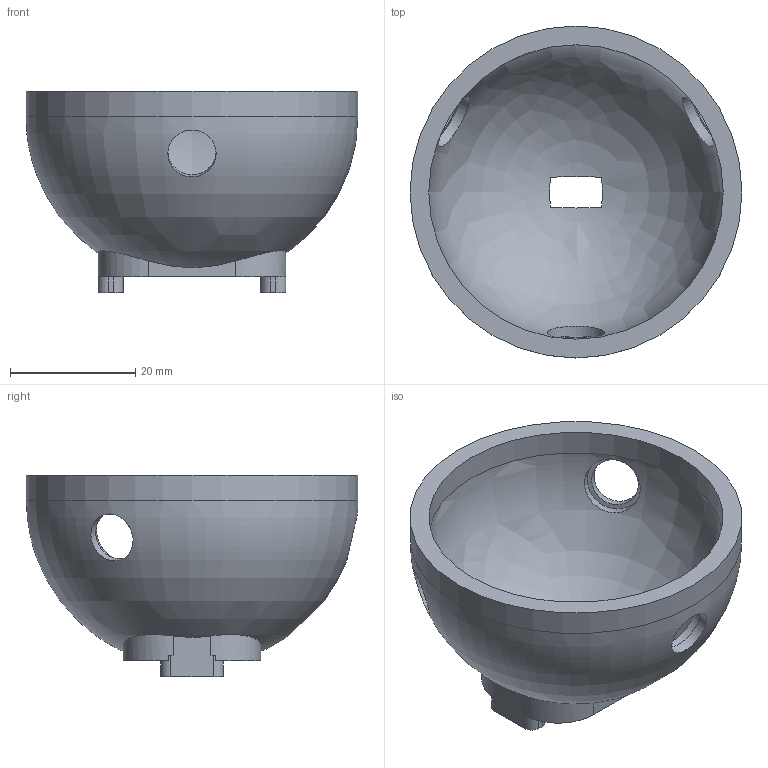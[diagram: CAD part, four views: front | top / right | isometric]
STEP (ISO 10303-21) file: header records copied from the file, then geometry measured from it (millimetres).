
FILE_DESCRIPTION(('Open CASCADE Model'),'2;1');
FILE_NAME('Open CASCADE Shape Model','2026-06-04T07:57:37',('Author'),( 'Open CASCADE'),'Open CASCADE STEP processor 7.6','Open CASCADE 7.6' ,'Unknown');
FILE_SCHEMA(('AP242_MANAGED_MODEL_BASED_3D_ENGINEERING_MIM_LF. {1 0 10303 442 1 1 4 }'));
Length unit declared in the file: millimetre
Products named in the file (1): Open CASCADE STEP translator 7.6 2
Bounding box: 53 x 53 x 32.1 mm (x, y, z)
Volume: 13568 mm3; surface area: 10034.1 mm2
Topology: 1 solids, 1 shells, 71 faces, 195 edges, 129 vertices
Faces by surface type: plane 35, cylinder 28, bspline 4, revolution 2, cone 2
Full cylindrical faces by diameter (mm): 2.05 x2, 7.7 x3, 9.2 x3, 47 x1, 53 x1
Entity records: 7966 total; most frequent: CARTESIAN_POINT 4136, DIRECTION 702, ORIENTED_EDGE 386, PCURVE 386, DEFINITIONAL_REPRESENTATION 386, LINE 382, VECTOR 382, EDGE_CURVE 193
